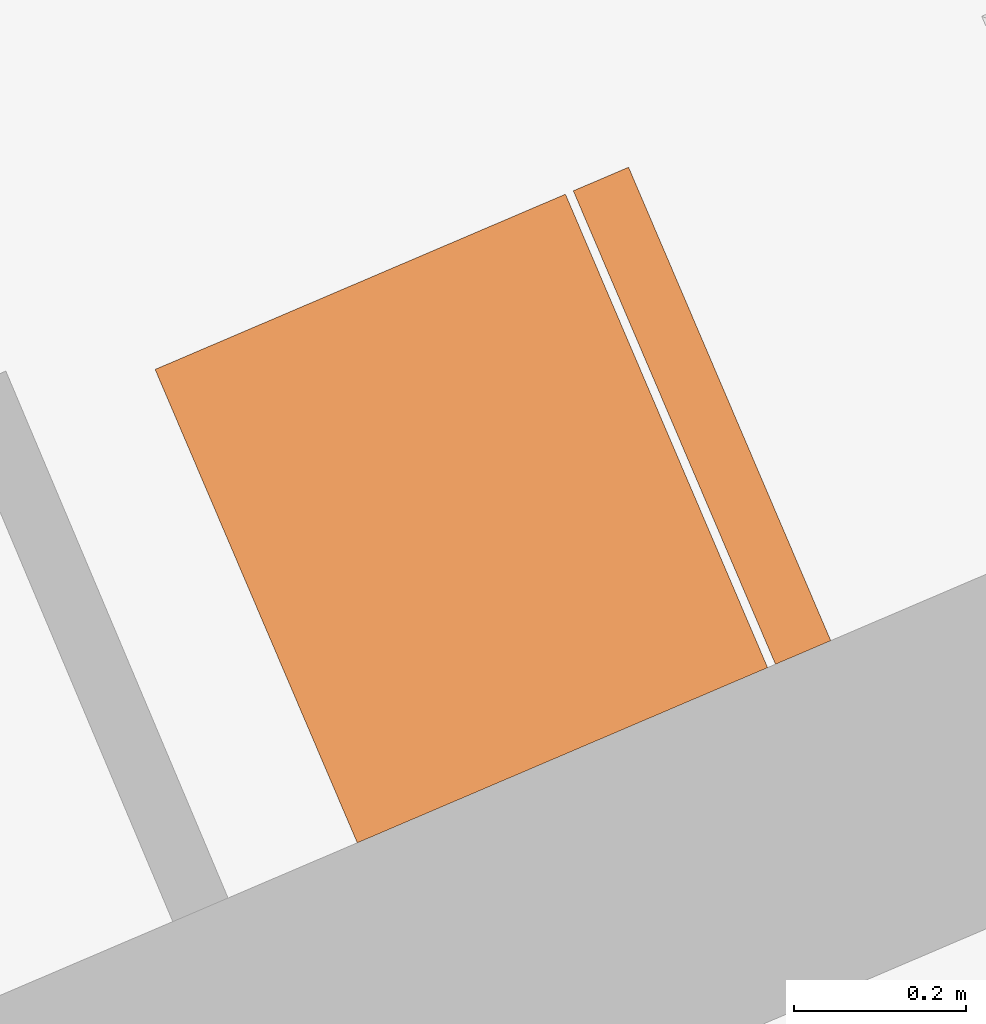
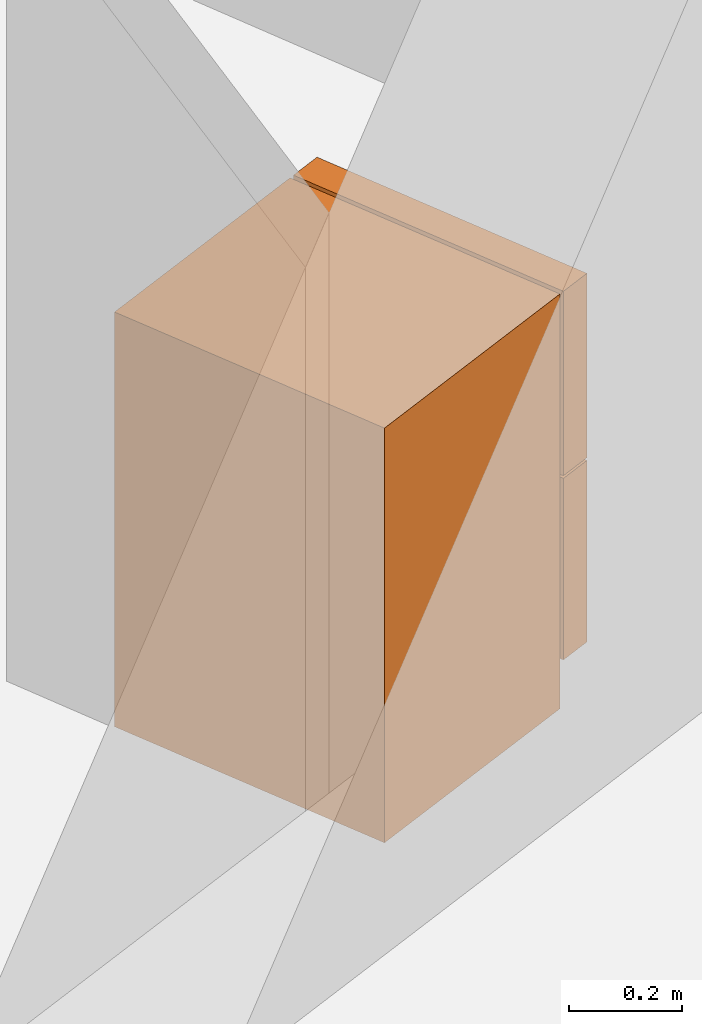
# One storey, part 175 of 195: 1 proxy.
"""IFC2X3 building model written with IfcOpenShell, lengths in metres."""

from ifc_helpers import new_model, entity, si_unit, converted_unit, derived_unit, money_unit, direction, frame, origin_with_axes, place, context, subcontext, project, spatial, open_shell, faceted_brep, surface_model, source, transform, mapped, type_object, element, save


model = new_model("IFC2X3")

# Units and contexts
model_context = context("Model", 3, precision=1e-05, world=origin_with_axes(), true_north=direction((0.0, 1.0)))
body_context = subcontext(model_context, "Body", "Model", "MODEL_VIEW")
ifc_project = project(units=[si_unit("LENGTHUNIT", "METRE"), si_unit("AREAUNIT", "SQUARE_METRE"), si_unit("VOLUMEUNIT", "CUBIC_METRE"), converted_unit("PLANEANGLEUNIT", "DEGREE", entity("IfcPlaneAngleMeasure", 0.0174532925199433), si_unit("PLANEANGLEUNIT", "RADIAN"), dimensions=[0, 0, 0, 0, 0, 0, 0]), money_unit("CHF"), converted_unit("TIMEUNIT", "Year", entity("IfcTimeMeasure", 31557600.0), si_unit("TIMEUNIT", "SECOND"), dimensions=[0, 0, 1, 0, 0, 0, 0]), si_unit("MASSUNIT", "GRAM", prefix="KILO"), si_unit("THERMODYNAMICTEMPERATUREUNIT", "DEGREE_CELSIUS"), si_unit("LUMINOUSINTENSITYUNIT", "LUMEN"), si_unit("ENERGYUNIT", "JOULE", prefix="MEGA"), derived_unit("THERMALCONDUCTANCEUNIT", [(si_unit("POWERUNIT", "WATT"), 1), (si_unit("LENGTHUNIT", "METRE"), -1), (si_unit("THERMODYNAMICTEMPERATUREUNIT", "KELVIN"), -1)]), derived_unit("SPECIFICHEATCAPACITYUNIT", [(si_unit("ENERGYUNIT", "JOULE"), 1), (si_unit("MASSUNIT", "GRAM", prefix="KILO"), -1), (si_unit("THERMODYNAMICTEMPERATUREUNIT", "KELVIN"), -1)]), derived_unit("MASSDENSITYUNIT", [(si_unit("MASSUNIT", "GRAM", prefix="KILO"), 1), (si_unit("VOLUMEUNIT", "CUBIC_METRE"), -1)])], contexts=[model_context])

# Site, building, storey
site_placement = place(None, origin_with_axes())
site = spatial("IfcSite", under=ifc_project, at=site_placement, Name="Site", CompositionType="ELEMENT")
building_placement = place(site_placement, origin_with_axes())
building = spatial("IfcBuilding", under=site, at=building_placement, Name="Bâtiment", CompositionType="ELEMENT")
storey_placement = place(building_placement, origin_with_axes())
storey = spatial("IfcBuildingStorey", under=building, at=storey_placement, Name="rdc", CompositionType="ELEMENT", Elevation=0.0)

# Proxy
building_element_proxy_type = type_object("IfcBuildingElementProxyType", PredefinedType="NOTDEFINED")
shared_shape = source(origin_with_axes(), body_context, "Body", "SurfaceModel", [
    faceted_brep([(0.0, 0.08, 0.1), (0.6, 0.08, 0.1), (0.6, 0.08, 0.9), (0.0, 0.08, 0.9), (0.0, 0.6, 0.1), (0.6, 0.6, 0.1), (0.6, 0.6, 0.9), (0.0, 0.6, 0.9)], [[[0, 1, 2, 3]], [[0, 4, 5, 1]], [[1, 5, 6, 2]], [[3, 2, 6, 7]], [[4, 0, 3, 7]], [[5, 4, 7, 6]]]),
    faceted_brep([(0.0, 0.08, 0.0), (0.6, 0.08, 0.0), (0.6, 0.08, 0.1), (0.0, 0.08, 0.1), (0.0, 0.6, 0.0), (0.6, 0.6, 0.0), (0.6, 0.6, 0.1), (0.0, 0.6, 0.1)], [[[0, 1, 2, 3]], [[0, 4, 5, 1]], [[1, 5, 6, 2]], [[3, 2, 6, 7]], [[4, 0, 3, 7]], [[5, 4, 7, 6]]]),
    faceted_brep([(0.0, 0.07, 0.1), (0.6, 0.07, 0.1), (0.6, 0.0, 0.1), (0.0, 0.0, 0.1), (0.0, 0.07000000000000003, 0.494), (0.6, 0.07000000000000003, 0.494), (0.6, 0.0, 0.494), (0.0, 0.0, 0.494)], [[[0, 1, 2, 3]], [[0, 4, 5, 1]], [[1, 5, 6, 2]], [[3, 2, 6, 7]], [[4, 0, 3, 7]], [[5, 4, 7, 6]]]),
    faceted_brep([(0.0, 0.07, 0.5), (0.6, 0.07, 0.5), (0.6, 0.0, 0.5), (0.0, 0.0, 0.5), (0.0, 0.07000000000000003, 0.9), (0.6, 0.07000000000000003, 0.9), (0.6, 0.0, 0.9), (0.0, 0.0, 0.9)], [[[0, 1, 2, 3]], [[0, 4, 5, 1]], [[1, 5, 6, 2]], [[3, 2, 6, 7]], [[4, 0, 3, 7]], [[5, 4, 7, 6]]]),
    surface_model("IfcShellBasedSurfaceModel", [(0.6, -0.03, 0.3), (0.6, -0.03, 0.4940000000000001), (0.6, 0.0, 0.4940000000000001), (0.6, 0.0, 0.3)], [open_shell([[[0, 1, 2, 3]]])]),
    surface_model("IfcShellBasedSurfaceModel", [(0.6, -0.03, 0.3), (0.6, -0.03, 0.4940000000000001), (0.57, -0.03, 0.4940000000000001), (0.57, -0.03, 0.3)], [open_shell([[[0, 1, 2, 3]]])]),
    surface_model("IfcShellBasedSurfaceModel", [(0.6, -0.03, 0.5), (0.6, -0.03, 0.7), (0.6, 0.0, 0.7), (0.6, 0.0, 0.5)], [open_shell([[[0, 1, 2, 3]]])]),
    surface_model("IfcShellBasedSurfaceModel", [(0.6, -0.03, 0.5), (0.6, -0.03, 0.7), (0.57, -0.03, 0.7), (0.57, -0.03, 0.5)], [open_shell([[[0, 1, 2, 3]]])]),
])
proxy_placement = place(storey_placement, frame((9573.86490949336, -1054.358209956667, 57.49999999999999), z_axis=(0.0, 0.0, 1.0), x_axis=(-0.3927340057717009, 0.9196521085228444, 0.0)))
element("IfcBuildingElementProxy", 1, at=proxy_placement, inside=storey, type_object=building_element_proxy_type, Name="Obj.-019", context=body_context, shape_type="MappedRepresentation", body=[
    mapped(shared_shape, transform((0.0, 0.0, 0.0))),
])

save(model, "model.ifc")
